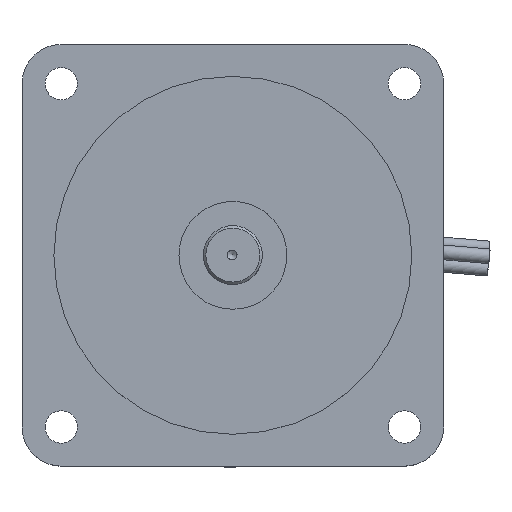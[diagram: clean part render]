
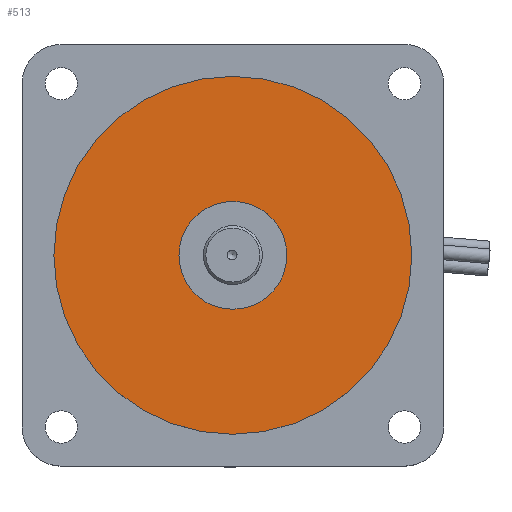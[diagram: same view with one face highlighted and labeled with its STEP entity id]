
A CAD part, top view. The second image highlights one B-rep face of the part: STEP entity #513.
In plain terms, the highlighted planar face has unit normal (0, 0, 1).
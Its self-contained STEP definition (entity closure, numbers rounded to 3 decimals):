
#450=CARTESIAN_POINT('',(-80.773,-89.811,149.505));
#451=VERTEX_POINT('',#450);
#452=CARTESIAN_POINT('',(-69.773,-89.811,149.505));
#453=DIRECTION('',(0.0,0.0,-1.0));
#454=DIRECTION('',(1.0,0.0,0.0));
#455=AXIS2_PLACEMENT_3D('',#452,#453,#454);
#456=CIRCLE('',#455,11.0);
#457=EDGE_CURVE('',#451,#451,#456,.T.);
#479=CARTESIAN_POINT('',(-106.273,-89.811,149.505));
#480=VERTEX_POINT('',#479);
#481=CARTESIAN_POINT('',(-69.773,-89.811,149.505));
#482=DIRECTION('',(0.0,0.0,-1.0));
#483=DIRECTION('',(1.0,0.0,0.0));
#484=AXIS2_PLACEMENT_3D('',#481,#482,#483);
#485=CIRCLE('',#484,36.5);
#486=EDGE_CURVE('',#480,#480,#485,.T.);
#502=CARTESIAN_POINT('',(-69.773,-89.811,149.505));
#503=DIRECTION('',(0.0,0.0,-1.0));
#504=DIRECTION('',(1.0,0.0,0.0));
#505=AXIS2_PLACEMENT_3D('',#502,#503,#504);
#506=PLANE('',#505);
#507=ORIENTED_EDGE('',*,*,#486,.F.);
#508=EDGE_LOOP('',(#507));
#509=FACE_OUTER_BOUND('',#508,.T.);
#510=ORIENTED_EDGE('',*,*,#457,.T.);
#511=EDGE_LOOP('',(#510));
#512=FACE_BOUND('',#511,.T.);
#513=ADVANCED_FACE('',(#509,#512),#506,.F.);
